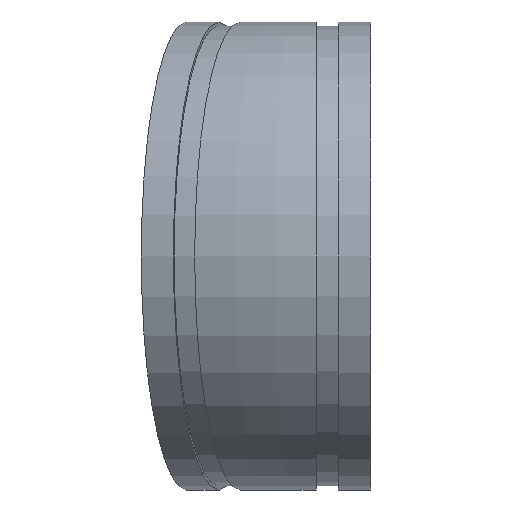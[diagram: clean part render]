
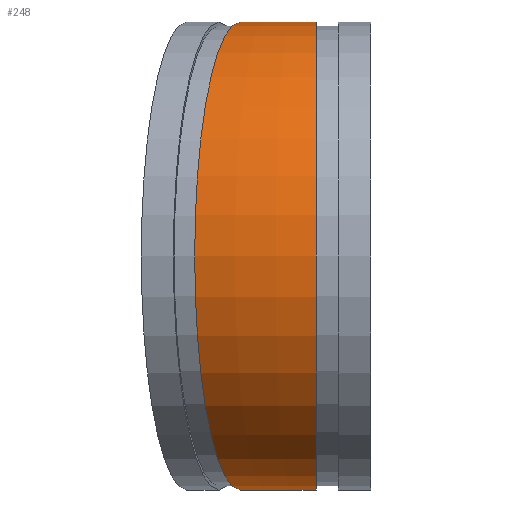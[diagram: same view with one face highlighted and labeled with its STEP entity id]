
A CAD part, left-side view. The second image highlights one B-rep face of the part: STEP entity #248.
In plain terms, the highlighted toroidal (fillet/blend) face has major radius 226.944 mm and minor radius 136.525 mm.
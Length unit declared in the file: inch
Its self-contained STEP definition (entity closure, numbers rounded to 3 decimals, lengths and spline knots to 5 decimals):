
#15=TOROIDAL_SURFACE('',#303,8.93479,5.375);
#47=FACE_OUTER_BOUND('',#65,.T.);
#65=EDGE_LOOP('',(#190,#191,#192,#193,#194,#195));
#79=CIRCLE('',#283,5.375);
#80=CIRCLE('',#284,5.375);
#86=CIRCLE('',#293,5.375);
#87=CIRCLE('',#294,5.375);
#95=CIRCLE('',#304,3.55979);
#105=VERTEX_POINT('',#418);
#106=VERTEX_POINT('',#419);
#112=VERTEX_POINT('',#436);
#113=VERTEX_POINT('',#437);
#130=EDGE_CURVE('',#105,#106,#79,.T.);
#131=EDGE_CURVE('',#106,#105,#80,.T.);
#138=EDGE_CURVE('',#112,#113,#86,.T.);
#139=EDGE_CURVE('',#113,#112,#87,.T.);
#147=EDGE_CURVE('',#113,#106,#95,.T.);
#190=ORIENTED_EDGE('',*,*,#138,.T.);
#191=ORIENTED_EDGE('',*,*,#147,.T.);
#192=ORIENTED_EDGE('',*,*,#131,.T.);
#193=ORIENTED_EDGE('',*,*,#130,.T.);
#194=ORIENTED_EDGE('',*,*,#147,.F.);
#195=ORIENTED_EDGE('',*,*,#139,.T.);
#248=ADVANCED_FACE('',(#47),#15,.T.);
#283=AXIS2_PLACEMENT_3D('',#420,#334,#335);
#284=AXIS2_PLACEMENT_3D('',#421,#336,#337);
#293=AXIS2_PLACEMENT_3D('',#438,#355,#356);
#294=AXIS2_PLACEMENT_3D('',#439,#357,#358);
#303=AXIS2_PLACEMENT_3D('',#454,#375,#376);
#304=AXIS2_PLACEMENT_3D('',#455,#377,#378);
#334=DIRECTION('center_axis',(0.,1.,0.));
#335=DIRECTION('ref_axis',(1.,0.,0.));
#336=DIRECTION('center_axis',(0.,1.,0.));
#337=DIRECTION('ref_axis',(1.,0.,0.));
#355=DIRECTION('center_axis',(-0.195,-0.981,0.));
#356=DIRECTION('ref_axis',(0.981,-0.195,0.));
#357=DIRECTION('center_axis',(-0.195,-0.981,0.));
#358=DIRECTION('ref_axis',(0.981,-0.195,0.));
#375=DIRECTION('center_axis',(0.,0.,-1.));
#376=DIRECTION('ref_axis',(-1.,0.,0.));
#377=DIRECTION('center_axis',(0.,0.,1.));
#378=DIRECTION('ref_axis',(-1.,0.,0.));
#418=CARTESIAN_POINT('',(0.,1.25,5.375));
#419=CARTESIAN_POINT('',(5.375,1.25,0.));
#420=CARTESIAN_POINT('Origin',(0.,1.25,0.));
#421=CARTESIAN_POINT('Origin',(0.,1.25,0.));
#436=CARTESIAN_POINT('',(0.17168,2.99309,5.375));
#437=CARTESIAN_POINT('',(5.4434,1.94448,0.));
#438=CARTESIAN_POINT('Origin',(0.17168,2.99309,0.));
#439=CARTESIAN_POINT('Origin',(0.17168,2.99309,0.));
#454=CARTESIAN_POINT('Origin',(8.93479,1.25,0.));
#455=CARTESIAN_POINT('Origin',(8.93479,1.25,0.));
